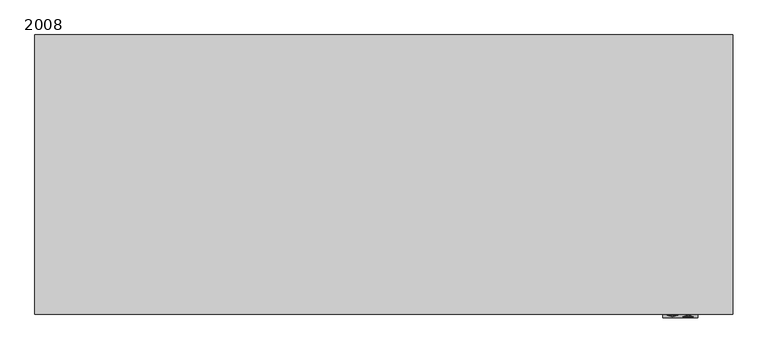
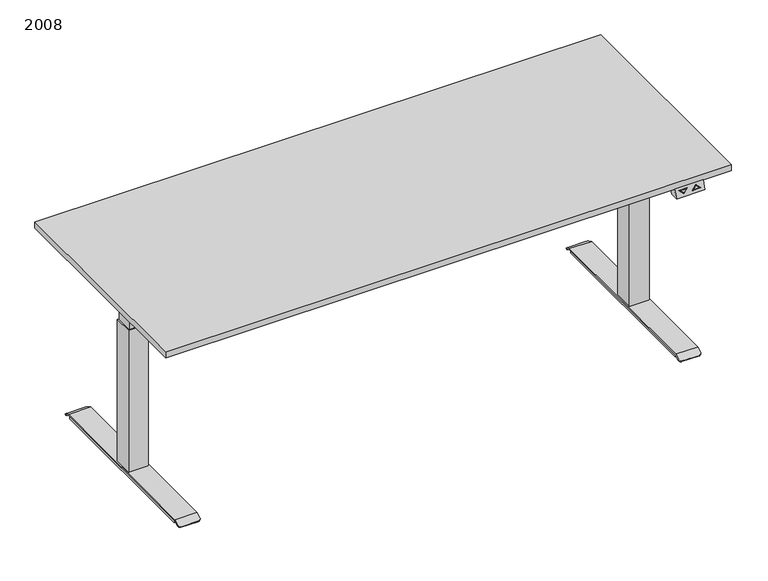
"""IFC4 building model written with IfcOpenShell, lengths in millimetres: furniture geometry, PINTA EQC : 2008."""

from ifc_helpers import new_model, si_unit, point, frame, frame_2d, origin, origin_with_axes, place, context, project, spatial, polyline, circle_curve, trimmed, segment, composite_curve, outline, extrude, faceted_brep, source, transform, mapped, element, save
from ifc_brep_helpers import plane_surface, cylinder_surface, advanced_brep


def furniture_2008_dd05b78f(model_context):
    return source(origin(), model_context, "Body", "SolidModel", [
        faceted_brep([(800.0, -810.0, 668.0), (800.0, -780.0, 668.0), (900.0, -780.0, 668.0), (900.0, -810.0, 668.0), (800.0, -800.0, 698.0), (900.0, -800.0, 698.0), (900.0, -770.0, 698.0), (800.0, -770.0, 698.0), (812.5, -802.6491106, 690.0526681), (842.5, -802.6491106, 690.0526681), (827.5, -807.3925271, 675.8224186), (887.5, -806.9174824, 677.2475529), (857.5, -806.9174824, 677.2475529), (872.5, -802.1740659, 691.4778023), (827.5, -806.4980999, 678.5057002), (837.6715729, -803.2815662, 688.1553015), (817.3284271, -803.2815662, 688.1553015), (882.6715729, -806.2850268, 679.1449195), (872.5, -803.0684931, 688.7945208), (862.3284271, -806.2850268, 679.1449195), (842.5, -801.7004273, 689.7364403), (812.5, -801.7004273, 689.7364403), (827.5, -806.4438438, 675.5061908), (837.6715729, -802.3328829, 687.8390737), (827.5, -805.5494166, 678.1894724), (817.3284271, -802.3328829, 687.8390737), (857.5, -805.9687991, 676.9313251), (887.5, -805.9687991, 676.9313251), (872.5, -801.2253826, 691.1615746), (872.5, -802.1198098, 688.478293), (882.6715729, -805.3363436, 678.8286917), (862.3284271, -805.3363436, 678.8286917)], [[[0, 1, 2, 3]], [[4, 5, 6, 7]], [[1, 0, 4, 7]], [[3, 2, 6, 5]], [[0, 3, 5, 4], [8, 9, 10], [11, 12, 13]], [[14, 15, 16]], [[17, 18, 19]], [[2, 1, 7, 6]], [[20, 21, 22], [23, 24, 25]], [[26, 27, 28], [29, 30, 31]], [[21, 20, 9, 8]], [[22, 21, 8, 10]], [[20, 22, 10, 9]], [[27, 26, 12, 11]], [[28, 27, 11, 13]], [[26, 28, 13, 12]], [[24, 23, 15, 14]], [[25, 24, 14, 16]], [[23, 25, 16, 15]], [[30, 29, 18, 17]], [[31, 30, 17, 19]], [[29, 31, 19, 18]]]),
        extrude(outline(polyline([(-920.0, -319.7732113), (920.0, -319.7733158), (920.0, -339.7733158), (-920.0, -339.7732113), (-920.0, -319.7732113)])), frame((0.0, 0.0, 658.0), z_axis=(0.0, 0.0, 1.0), x_axis=(1.0, 0.0, 0.0)), (0.0, 0.0, 1.0), 40.0),
        extrude(outline(polyline([(-920.0, -459.7732114), (920.0, -459.7733158), (920.0, -479.7733158), (-920.0, -479.7732114), (-920.0, -459.7732114)])), frame((0.0, 0.0, 658.0), z_axis=(0.0, 0.0, 1.0), x_axis=(1.0, 0.0, 0.0)), (0.0, 0.0, 1.0), 40.0),
        extrude(outline(polyline([(-1000.0, -800.0), (-1000.0, 0.0), (1000.0, 0.0), (1000.0, -800.0), (-1000.0, -800.0)])), frame((0.0, 0.0, 698.0), z_axis=(0.0, 0.0, 1.0), x_axis=(1.0, 0.0, 0.0)), (0.0, 0.0, 1.0), 22.0),
        advanced_brep(
        [(846.9772339, -720.0, 6.0), (846.9772339, -720.0, 16.0), (846.9772339, -80.0, 16.0), (846.9772339, -80.0, 6.0), (923.0227661, -80.0, 16.0), (923.0227661, -80.0, 6.0), (923.0227661, -720.0, 16.0), (923.0227661, -720.0, 6.0), (846.0, -75.0, 20.0), (846.0, -56.9800481, 9.908827), (846.0, -58.9344616, 6.4188029), (846.0, -76.0437422, 16.0), (846.0, -723.9562578, 16.0), (846.0, -741.0655384, 6.4188029), (846.0, -743.0199519, 9.908827), (846.0, -725.0, 20.0), (924.0, -76.0437422, 16.0), (924.0, -58.9344616, 6.4188029), (924.0, -56.9800481, 9.908827), (924.0, -75.0, 20.0), (924.0, -725.0, 20.0), (924.0, -743.0199519, 9.908827), (924.0, -741.0655384, 6.4188029), (924.0, -723.9562578, 16.0), (854.0, -750.0, 6.0), (916.0, -750.0, 6.0), (854.0, -748.0455865, 2.5099759), (916.0, -748.0455865, 2.5099759), (854.0, -51.9544135, 2.5099759), (916.0, -51.9544135, 2.5099759), (854.0, -50.0, 6.0), (916.0, -50.0, 6.0)],
        [
            (0, 1),
            (1, 2),
            (2, 3),
            (3, 0),
            (2, 4),
            (4, 5),
            (5, 3),
            (4, 6),
            (6, 7),
            (7, 5),
            (6, 1),
            (0, 7),
            (8, 9),
            (9, 10),
            (10, 11),
            (11, 12),
            (12, 13),
            (13, 14),
            (14, 15),
            (15, 8),
            (16, 17),
            (17, 18),
            (18, 19),
            (19, 20),
            (20, 21),
            (21, 22),
            (22, 23),
            (23, 16),
            (15, 20),
            (19, 8),
            (11, 16),
            (23, 12),
            (14, 24, circle_curve(frame((854.0, -743.0199519, 9.908827), z_axis=(0.0, -0.4886033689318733, 0.8725060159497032), x_axis=(0.0, 0.8725060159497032, 0.4886033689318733)), 8.0)),
            (24, 25),
            (25, 21, circle_curve(frame((916.0, -743.0199519, 9.908827), z_axis=(0.0, -0.4886033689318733, 0.8725060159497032), x_axis=(0.0, 0.8725060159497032, 0.4886033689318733)), 8.0)),
            (24, 26),
            (26, 27),
            (27, 25),
            (22, 27, circle_curve(frame((916.0, -741.0655384, 6.4188029), z_axis=(0.0, 0.4886033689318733, -0.8725060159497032), x_axis=(0.0, 0.8725060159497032, 0.4886033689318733)), 8.0)),
            (26, 13, circle_curve(frame((854.0, -741.0655384, 6.4188029), z_axis=(0.0, 0.4886033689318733, -0.8725060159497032), x_axis=(0.0, 0.8725060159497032, 0.4886033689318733)), 8.0)),
            (10, 28, circle_curve(frame((854.0, -58.9344616, 6.4188029), z_axis=(0.0, -0.4886033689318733, -0.8725060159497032), x_axis=(0.0, -0.8725060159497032, 0.4886033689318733)), 8.0)),
            (28, 29),
            (29, 17, circle_curve(frame((916.0, -58.9344616, 6.4188029), z_axis=(0.0, -0.4886033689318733, -0.8725060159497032), x_axis=(0.0, -0.8725060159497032, 0.4886033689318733)), 8.0)),
            (28, 30),
            (30, 31),
            (31, 29),
            (18, 31, circle_curve(frame((916.0, -56.9800481, 9.908827), z_axis=(0.0, 0.4886033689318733, 0.8725060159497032), x_axis=(0.0, -0.8725060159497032, 0.4886033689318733)), 8.0)),
            (30, 9, circle_curve(frame((854.0, -56.9800481, 9.908827), z_axis=(0.0, 0.4886033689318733, 0.8725060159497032), x_axis=(0.0, -0.8725060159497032, 0.4886033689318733)), 8.0)),
        ],
        [
            plane_surface(frame((846.9772339, -720.0, 16.0), z_axis=(-1.0, 0.0, 0.0), x_axis=(0.0, 0.0, -1.0))),
            plane_surface(frame((846.9772339, -80.0, 16.0), z_axis=(0.0, 1.0, 0.0), x_axis=(0.0, 0.0, -1.0))),
            plane_surface(frame((923.0227661, -80.0, 16.0), z_axis=(1.0, 0.0, 0.0), x_axis=(0.0, 0.0, -1.0))),
            plane_surface(frame((923.0227661, -720.0, 16.0), z_axis=(0.0, -1.0, 0.0), x_axis=(0.0, 0.0, -1.0))),
            plane_surface(frame((846.9772339, -723.4188232, 6.0), z_axis=(0.0, 0.0, -1.0), x_axis=(0.0, -1.0, 0.0))),
            plane_surface(frame((846.0, -400.0, 20.0), z_axis=(-1.0, 0.0, 0.0), x_axis=(0.0, -1.0, 0.0))),
            plane_surface(frame((924.0, -400.0, 20.0), z_axis=(1.0, 0.0, 0.0), x_axis=(0.0, 1.0, 0.0))),
            plane_surface(frame((846.0, -75.0, 20.0), z_axis=(0.0, 0.0, 1.0), x_axis=(1.0, 0.0, 0.0))),
            plane_surface(frame((846.0, -723.9562578, 16.0), z_axis=(0.0, 0.0, -1.0), x_axis=(1.0, 0.0, 0.0))),
            plane_surface(frame((846.0, -725.0, 20.0), z_axis=(0.0, -0.4886033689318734, 0.8725060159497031), x_axis=(1.0, 0.0, 0.0))),
            plane_surface(frame((846.0, -750.0, 6.0), z_axis=(0.0, -0.872506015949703, -0.4886033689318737), x_axis=(1.0, 0.0, 0.0))),
            plane_surface(frame((846.0, -748.0455865, 2.5099759), z_axis=(0.0, 0.4886033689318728, -0.8725060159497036), x_axis=(1.0, 0.0, 0.0))),
            plane_surface(frame((846.0, -76.0437422, 16.0), z_axis=(0.0, -0.4886033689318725, -0.8725060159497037), x_axis=(1.0, 0.0, 0.0))),
            plane_surface(frame((846.0, -51.9544135, 2.5099759), z_axis=(0.0, 0.8725060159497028, -0.48860336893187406), x_axis=(1.0, 0.0, 0.0))),
            plane_surface(frame((846.0, -50.0, 6.0), z_axis=(0.0, 0.48860336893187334, 0.8725060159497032), x_axis=(1.0, 0.0, 0.0))),
            cylinder_surface(frame((854.0, -743.0199519, 9.908827), z_axis=(0.0, -0.4886033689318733, 0.8725060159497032), x_axis=(0.0, 0.8725060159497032, 0.4886033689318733)), 8.0),
            cylinder_surface(frame((916.0, -743.0199519, 9.908827), z_axis=(0.0, -0.4886033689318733, 0.8725060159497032), x_axis=(0.0, 0.8725060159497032, 0.4886033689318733)), 8.0),
            cylinder_surface(frame((854.0, -56.9800481, 9.908827), z_axis=(0.0, 0.4886033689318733, 0.8725060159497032), x_axis=(0.0, -0.8725060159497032, 0.4886033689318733)), 8.0),
            cylinder_surface(frame((916.0, -56.9800481, 9.908827), z_axis=(0.0, 0.4886033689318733, 0.8725060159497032), x_axis=(0.0, -0.8725060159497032, 0.4886033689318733)), 8.0),
        ],
        [
            (0, [[1, 2, 3, 4]]),
            (1, [[-3, 5, 6, 7]]),
            (2, [[-6, 8, 9, 10]]),
            (3, [[-9, 11, -1, 12]]),
            (4, [[-4, -7, -10, -12]]),
            (5, [[13, 14, 15, 16, 17, 18, 19, 20]]),
            (6, [[21, 22, 23, 24, 25, 26, 27, 28]]),
            (7, [[29, -24, 30, -20]]),
            (8, [[31, -28, 32, -16], [-11, -8, -5, -2]]),
            (9, [[-19, 33, 34, 35, -25, -29]]),
            (10, [[36, 37, 38, -34]]),
            (11, [[-27, 39, -37, 40, -17, -32]]),
            (12, [[-15, 41, 42, 43, -21, -31]]),
            (13, [[44, 45, 46, -42]]),
            (14, [[-23, 47, -45, 48, -13, -30]]),
            (15, [[-40, -36, -33, -18]]),
            (16, [[-35, -38, -39, -26]]),
            (17, [[-48, -44, -41, -14]]),
            (18, [[-43, -46, -47, -22]]),
        ],
    ),
        faceted_brep([(719.4551307, -460.0, 698.0), (902.9996948, -460.0, 698.0), (902.9996948, -700.0, 698.0), (919.4551307, -700.0, 698.0), (923.0, -700.0, 698.0), (923.0, -100.0, 698.0), (919.4551307, -100.0, 698.0), (902.9996948, -100.0, 698.0), (902.9996948, -340.0, 698.0), (719.4551307, -340.0, 698.0), (719.4551307, -460.0, 635.2327881), (719.4551307, -340.0, 635.2327881), (919.4551307, -340.0, 635.2327881), (919.4551307, -303.8252348, 635.2327881), (923.0, -303.8252348, 635.2327881), (923.0, -496.1747652, 635.2327881), (919.4551307, -496.1747652, 635.2327881), (919.4551307, -460.0, 635.2327881), (902.9996948, -340.0, 694.9093018), (919.4551307, -340.0, 694.9093018), (919.4551307, -460.0, 694.9093018), (902.9996948, -460.0, 694.9093018), (919.4551307, -700.0, 694.9093018), (902.9996948, -700.0, 694.9093018), (919.4551307, -100.0, 694.9093018), (902.9996948, -100.0, 694.9093018), (919.4551307, -101.1249222, 694.9093018), (919.4551307, -698.8750778, 694.9093018), (919.4551307, -108.5505036, 674.5076845), (919.4551307, -691.4494964, 674.5076845), (923.0, -108.5505036, 674.5076845), (923.0, -691.4494964, 674.5076845)], [[[0, 1, 2, 3, 4, 5, 6, 7, 8, 9]], [[10, 11, 12, 13, 14, 15, 16, 17]], [[9, 11, 10, 0]], [[11, 9, 8, 18, 19, 12]], [[17, 20, 21, 1, 0, 10]], [[22, 3, 2, 23]], [[24, 25, 7, 6]], [[24, 26, 19, 18, 25]], [[23, 21, 20, 27, 22]], [[2, 1, 21, 23]], [[25, 18, 8, 7]], [[13, 12, 19, 26, 28]], [[29, 27, 20, 17, 16]], [[15, 14, 30, 5, 4, 31]], [[16, 15, 31, 29]], [[22, 27, 3]], [[6, 26, 24]], [[4, 3, 27, 29, 31]], [[28, 30, 14, 13]], [[30, 28, 26, 6, 5]]]),
        extrude(outline(composite_curve([segment(trimmed(circle_curve(frame_2d((885.0, -705.0)), 25.0), [point((910.0, -705.0))], [point((860.0, -705.0))], False, "CARTESIAN"), True, "CONTINUOUS"), segment(trimmed(circle_curve(frame_2d((885.0, -705.0)), 25.0), [point((860.0, -705.0))], [point((910.0, -705.0))], False, "CARTESIAN"), True, "CONTINUOUS")], self_intersect=False)), origin_with_axes(), (0.0, 0.0, 1.0), 6.0),
        extrude(outline(composite_curve([segment(trimmed(circle_curve(frame_2d((885.0, -95.0)), 25.0), [point((910.0, -95.0))], [point((860.0, -95.0))], False, "CARTESIAN"), True, "CONTINUOUS"), segment(trimmed(circle_curve(frame_2d((885.0, -95.0)), 25.0), [point((860.0, -95.0))], [point((910.0, -95.0))], False, "CARTESIAN"), True, "CONTINUOUS")], self_intersect=False)), origin_with_axes(), (0.0, 0.0, 1.0), 6.0),
        faceted_brep([(850.0, -365.0, 550.0), (850.0, -434.9621325, 550.0), (920.0, -434.9621325, 550.0), (920.0, -365.0, 550.0), (915.0, -370.0, 550.0), (915.0, -429.9621325, 550.0), (855.0, -429.9621325, 550.0), (855.0, -370.0, 550.0), (850.0, -365.0, 20.0), (920.0, -365.0, 20.0), (920.0, -434.9621325, 20.0), (850.0, -434.9621325, 20.0), (855.0, -370.0, 592.616394), (855.0, -429.9621325, 592.616394), (915.0, -429.9621325, 592.616394), (915.0, -370.0, 592.616394), (910.0, -375.0, 592.616394), (910.0, -424.9621325, 592.616394), (860.0, -424.9621325, 592.616394), (860.0, -375.0, 592.616394), (860.0, -375.0, 635.2327881), (860.0, -424.9621325, 635.2327881), (910.0, -424.9621325, 635.2327881), (910.0, -375.0, 635.2327881)], [[[0, 1, 2, 3], [4, 5, 6, 7]], [[8, 9, 10, 11]], [[3, 9, 8, 0]], [[2, 10, 9, 3]], [[1, 11, 10, 2]], [[0, 8, 11, 1]], [[12, 13, 14, 15], [16, 17, 18, 19]], [[15, 4, 7, 12]], [[14, 5, 4, 15]], [[13, 6, 5, 14]], [[12, 7, 6, 13]], [[20, 21, 22, 23]], [[23, 16, 19, 20]], [[22, 17, 16, 23]], [[21, 18, 17, 22]], [[20, 19, 18, 21]]]),
        advanced_brep(
        [(-846.9772339, -720.0, 6.0), (-846.9772339, -80.0, 6.0), (-846.9772339, -80.0, 16.0), (-846.9772339, -720.0, 16.0), (-923.0227661, -80.0, 6.0), (-923.0227661, -80.0, 16.0), (-923.0227661, -720.0, 6.0), (-923.0227661, -720.0, 16.0), (-846.0, -75.0, 20.0), (-846.0, -725.0, 20.0), (-846.0, -743.0199519, 9.908827), (-846.0, -741.0655384, 6.4188029), (-846.0, -723.9562578, 16.0), (-846.0, -76.0437422, 16.0), (-846.0, -58.9344616, 6.4188029), (-846.0, -56.9800481, 9.908827), (-924.0, -76.0437422, 16.0), (-924.0, -723.9562578, 16.0), (-924.0, -741.0655384, 6.4188029), (-924.0, -743.0199519, 9.908827), (-924.0, -725.0, 20.0), (-924.0, -75.0, 20.0), (-924.0, -56.9800481, 9.908827), (-924.0, -58.9344616, 6.4188029), (-916.0, -750.0, 6.0), (-854.0, -750.0, 6.0), (-916.0, -748.0455865, 2.5099759), (-854.0, -748.0455865, 2.5099759), (-916.0, -51.9544135, 2.5099759), (-854.0, -51.9544135, 2.5099759), (-916.0, -50.0, 6.0), (-854.0, -50.0, 6.0)],
        [
            (0, 1),
            (1, 2),
            (2, 3),
            (3, 0),
            (1, 4),
            (4, 5),
            (5, 2),
            (4, 6),
            (6, 7),
            (7, 5),
            (6, 0),
            (3, 7),
            (8, 9),
            (9, 10),
            (10, 11),
            (11, 12),
            (12, 13),
            (13, 14),
            (14, 15),
            (15, 8),
            (16, 17),
            (17, 18),
            (18, 19),
            (19, 20),
            (20, 21),
            (21, 22),
            (22, 23),
            (23, 16),
            (8, 21),
            (20, 9),
            (12, 17),
            (16, 13),
            (19, 24, circle_curve(frame((-916.0, -743.0199519, 9.908827), z_axis=(0.0, -0.4886033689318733, 0.8725060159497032), x_axis=(0.0, 0.8725060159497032, 0.4886033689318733)), 8.0)),
            (24, 25),
            (25, 10, circle_curve(frame((-854.0, -743.0199519, 9.908827), z_axis=(0.0, -0.4886033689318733, 0.8725060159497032), x_axis=(0.0, 0.8725060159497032, 0.4886033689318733)), 8.0)),
            (24, 26),
            (26, 27),
            (27, 25),
            (11, 27, circle_curve(frame((-854.0, -741.0655384, 6.4188029), z_axis=(0.0, 0.4886033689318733, -0.8725060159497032), x_axis=(0.0, 0.8725060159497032, 0.4886033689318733)), 8.0)),
            (26, 18, circle_curve(frame((-916.0, -741.0655384, 6.4188029), z_axis=(0.0, 0.4886033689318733, -0.8725060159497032), x_axis=(0.0, 0.8725060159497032, 0.4886033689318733)), 8.0)),
            (23, 28, circle_curve(frame((-916.0, -58.9344616, 6.4188029), z_axis=(0.0, -0.4886033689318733, -0.8725060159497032), x_axis=(0.0, -0.8725060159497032, 0.4886033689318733)), 8.0)),
            (28, 29),
            (29, 14, circle_curve(frame((-854.0, -58.9344616, 6.4188029), z_axis=(0.0, -0.4886033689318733, -0.8725060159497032), x_axis=(0.0, -0.8725060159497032, 0.4886033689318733)), 8.0)),
            (28, 30),
            (30, 31),
            (31, 29),
            (15, 31, circle_curve(frame((-854.0, -56.9800481, 9.908827), z_axis=(0.0, 0.4886033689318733, 0.8725060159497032), x_axis=(0.0, -0.8725060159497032, 0.4886033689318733)), 8.0)),
            (30, 22, circle_curve(frame((-916.0, -56.9800481, 9.908827), z_axis=(0.0, 0.4886033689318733, 0.8725060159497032), x_axis=(0.0, -0.8725060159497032, 0.4886033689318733)), 8.0)),
        ],
        [
            plane_surface(frame((-846.9772339, -720.0, 16.0), z_axis=(1.0, 0.0, 0.0), x_axis=(0.0, 0.0, -1.0))),
            plane_surface(frame((-846.9772339, -80.0, 16.0), z_axis=(0.0, 1.0, 0.0), x_axis=(0.0, 0.0, -1.0))),
            plane_surface(frame((-923.0227661, -80.0, 16.0), z_axis=(-1.0, 0.0, 0.0), x_axis=(0.0, 0.0, -1.0))),
            plane_surface(frame((-923.0227661, -720.0, 16.0), z_axis=(0.0, -1.0, 0.0), x_axis=(0.0, 0.0, -1.0))),
            plane_surface(frame((-846.9772339, -723.4188232, 6.0), z_axis=(0.0, 0.0, -1.0), x_axis=(0.0, -1.0, 0.0))),
            plane_surface(frame((-846.0, -400.0, 20.0), z_axis=(1.0, 0.0, 0.0), x_axis=(0.0, -1.0, 0.0))),
            plane_surface(frame((-924.0, -400.0, 20.0), z_axis=(-1.0, 0.0, 0.0), x_axis=(0.0, 1.0, 0.0))),
            plane_surface(frame((-846.0, -75.0, 20.0), z_axis=(0.0, 0.0, 1.0), x_axis=(-1.0, 0.0, 0.0))),
            plane_surface(frame((-846.0, -723.9562578, 16.0), z_axis=(0.0, 0.0, -1.0), x_axis=(-1.0, 0.0, 0.0))),
            plane_surface(frame((-846.0, -725.0, 20.0), z_axis=(0.0, -0.4886033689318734, 0.8725060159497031), x_axis=(-1.0, 0.0, 0.0))),
            plane_surface(frame((-846.0, -750.0, 6.0), z_axis=(0.0, -0.872506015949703, -0.4886033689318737), x_axis=(-1.0, 0.0, 0.0))),
            plane_surface(frame((-846.0, -748.0455865, 2.5099759), z_axis=(0.0, 0.4886033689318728, -0.8725060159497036), x_axis=(-1.0, 0.0, 0.0))),
            plane_surface(frame((-846.0, -76.0437422, 16.0), z_axis=(0.0, -0.4886033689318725, -0.8725060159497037), x_axis=(-1.0, 0.0, 0.0))),
            plane_surface(frame((-846.0, -51.9544135, 2.5099759), z_axis=(0.0, 0.8725060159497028, -0.48860336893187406), x_axis=(-1.0, 0.0, 0.0))),
            plane_surface(frame((-846.0, -50.0, 6.0), z_axis=(0.0, 0.48860336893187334, 0.8725060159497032), x_axis=(-1.0, 0.0, 0.0))),
            cylinder_surface(frame((-854.0, -743.0199519, 9.908827), z_axis=(0.0, -0.4886033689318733, 0.8725060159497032), x_axis=(0.0, 0.8725060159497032, 0.4886033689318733)), 8.0),
            cylinder_surface(frame((-916.0, -743.0199519, 9.908827), z_axis=(0.0, -0.4886033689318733, 0.8725060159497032), x_axis=(0.0, 0.8725060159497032, 0.4886033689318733)), 8.0),
            cylinder_surface(frame((-854.0, -56.9800481, 9.908827), z_axis=(0.0, 0.4886033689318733, 0.8725060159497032), x_axis=(0.0, -0.8725060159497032, 0.4886033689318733)), 8.0),
            cylinder_surface(frame((-916.0, -56.9800481, 9.908827), z_axis=(0.0, 0.4886033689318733, 0.8725060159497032), x_axis=(0.0, -0.8725060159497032, 0.4886033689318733)), 8.0),
        ],
        [
            (0, [[1, 2, 3, 4]]),
            (1, [[5, 6, 7, -2]]),
            (2, [[8, 9, 10, -6]]),
            (3, [[11, -4, 12, -9]]),
            (4, [[-11, -8, -5, -1]]),
            (5, [[13, 14, 15, 16, 17, 18, 19, 20]]),
            (6, [[21, 22, 23, 24, 25, 26, 27, 28]]),
            (7, [[-13, 29, -25, 30]]),
            (8, [[-17, 31, -21, 32], [-3, -7, -10, -12]]),
            (9, [[-30, -24, 33, 34, 35, -14]]),
            (10, [[-34, 36, 37, 38]]),
            (11, [[-31, -16, 39, -37, 40, -22]]),
            (12, [[-32, -28, 41, 42, 43, -18]]),
            (13, [[-42, 44, 45, 46]]),
            (14, [[-29, -20, 47, -45, 48, -26]]),
            (15, [[-15, -35, -38, -39]]),
            (16, [[-23, -40, -36, -33]]),
            (17, [[-19, -43, -46, -47]]),
            (18, [[-27, -48, -44, -41]]),
        ],
    ),
        faceted_brep([(-719.4551307, -460.0, 698.0), (-719.4551307, -340.0, 698.0), (-902.9996948, -340.0, 698.0), (-902.9996948, -100.0, 698.0), (-919.4551307, -100.0, 698.0), (-923.0, -100.0, 698.0), (-923.0, -700.0, 698.0), (-919.4551307, -700.0, 698.0), (-902.9996948, -700.0, 698.0), (-902.9996948, -460.0, 698.0), (-719.4551307, -460.0, 635.2327881), (-919.4551307, -460.0, 635.2327881), (-919.4551307, -496.1747652, 635.2327881), (-923.0, -496.1747652, 635.2327881), (-923.0, -303.8252348, 635.2327881), (-919.4551307, -303.8252348, 635.2327881), (-919.4551307, -340.0, 635.2327881), (-719.4551307, -340.0, 635.2327881), (-919.4551307, -340.0, 694.9093018), (-902.9996948, -340.0, 694.9093018), (-902.9996948, -460.0, 694.9093018), (-919.4551307, -460.0, 694.9093018), (-919.4551307, -700.0, 694.9093018), (-902.9996948, -700.0, 694.9093018), (-919.4551307, -100.0, 694.9093018), (-902.9996948, -100.0, 694.9093018), (-919.4551307, -698.8750778, 694.9093018), (-919.4551307, -101.1249222, 694.9093018), (-919.4551307, -691.4494964, 674.5076845), (-919.4551307, -108.5505036, 674.5076845), (-923.0, -691.4494964, 674.5076845), (-923.0, -108.5505036, 674.5076845)], [[[0, 1, 2, 3, 4, 5, 6, 7, 8, 9]], [[10, 11, 12, 13, 14, 15, 16, 17]], [[1, 0, 10, 17]], [[17, 16, 18, 19, 2, 1]], [[11, 10, 0, 9, 20, 21]], [[22, 23, 8, 7]], [[24, 4, 3, 25]], [[23, 22, 26, 21, 20]], [[24, 25, 19, 18, 27]], [[8, 23, 20, 9]], [[25, 3, 2, 19]], [[28, 12, 11, 21, 26]], [[15, 29, 27, 18, 16]], [[13, 30, 6, 5, 31, 14]], [[12, 28, 30, 13]], [[22, 7, 26]], [[4, 24, 27]], [[6, 30, 28, 26, 7]], [[29, 15, 14, 31]], [[31, 5, 4, 27, 29]]]),
        extrude(outline(composite_curve([segment(trimmed(circle_curve(frame_2d((-885.0, -705.0)), 25.0), [point((-910.0, -705.0))], [point((-860.0, -705.0))], False, "CARTESIAN"), True, "CONTINUOUS"), segment(trimmed(circle_curve(frame_2d((-885.0, -705.0)), 25.0), [point((-860.0, -705.0))], [point((-910.0, -705.0))], False, "CARTESIAN"), True, "CONTINUOUS")], self_intersect=False)), origin_with_axes(), (0.0, 0.0, 1.0), 6.0),
        extrude(outline(composite_curve([segment(trimmed(circle_curve(frame_2d((-885.0, -95.0)), 25.0), [point((-910.0, -95.0))], [point((-860.0, -95.0))], False, "CARTESIAN"), True, "CONTINUOUS"), segment(trimmed(circle_curve(frame_2d((-885.0, -95.0)), 25.0), [point((-860.0, -95.0))], [point((-910.0, -95.0))], False, "CARTESIAN"), True, "CONTINUOUS")], self_intersect=False)), origin_with_axes(), (0.0, 0.0, 1.0), 6.0),
        faceted_brep([(-850.0, -365.0, 550.0), (-920.0, -365.0, 550.0), (-920.0, -434.9621325, 550.0), (-850.0, -434.9621325, 550.0), (-915.0, -370.0, 550.0), (-855.0, -370.0, 550.0), (-855.0, -429.9621325, 550.0), (-915.0, -429.9621325, 550.0), (-850.0, -365.0, 20.0), (-850.0, -434.9621325, 20.0), (-920.0, -434.9621325, 20.0), (-920.0, -365.0, 20.0), (-855.0, -370.0, 592.616394), (-915.0, -370.0, 592.616394), (-915.0, -429.9621325, 592.616394), (-855.0, -429.9621325, 592.616394), (-910.0, -375.0, 592.616394), (-860.0, -375.0, 592.616394), (-860.0, -424.9621325, 592.616394), (-910.0, -424.9621325, 592.616394), (-860.0, -375.0, 635.2327881), (-910.0, -375.0, 635.2327881), (-910.0, -424.9621325, 635.2327881), (-860.0, -424.9621325, 635.2327881)], [[[0, 1, 2, 3], [4, 5, 6, 7]], [[8, 9, 10, 11]], [[1, 0, 8, 11]], [[2, 1, 11, 10]], [[3, 2, 10, 9]], [[0, 3, 9, 8]], [[12, 13, 14, 15], [16, 17, 18, 19]], [[13, 12, 5, 4]], [[14, 13, 4, 7]], [[15, 14, 7, 6]], [[12, 15, 6, 5]], [[20, 21, 22, 23]], [[21, 20, 17, 16]], [[22, 21, 16, 19]], [[23, 22, 19, 18]], [[20, 23, 18, 17]]]),
    ])


if __name__ == "__main__":
    model = new_model("IFC4")
    model_context = context("Model", 3, world=origin())
    ifc_project = project(units=[si_unit("LENGTHUNIT", "METRE", prefix="MILLI")], contexts=[model_context])
    site = spatial("IfcSite", under=ifc_project)
    building = spatial("IfcBuilding", under=site)
    placement = place(None, origin())
    furniture_2008_shape = furniture_2008_dd05b78f(model_context)
    element("IfcFurniture", 1, ObjectType="PINTA EQC : 2008", at=placement, inside=building, context=model_context, shape_type="MappedRepresentation", body=[
        mapped(furniture_2008_shape, transform((0.0, 0.0, 0.0), x_axis=(1.0, 0.0, 0.0), y_axis=(0.0, 1.0, 0.0), z_axis=(0.0, 0.0, 1.0))),
    ])
    save(model, "model.ifc")
